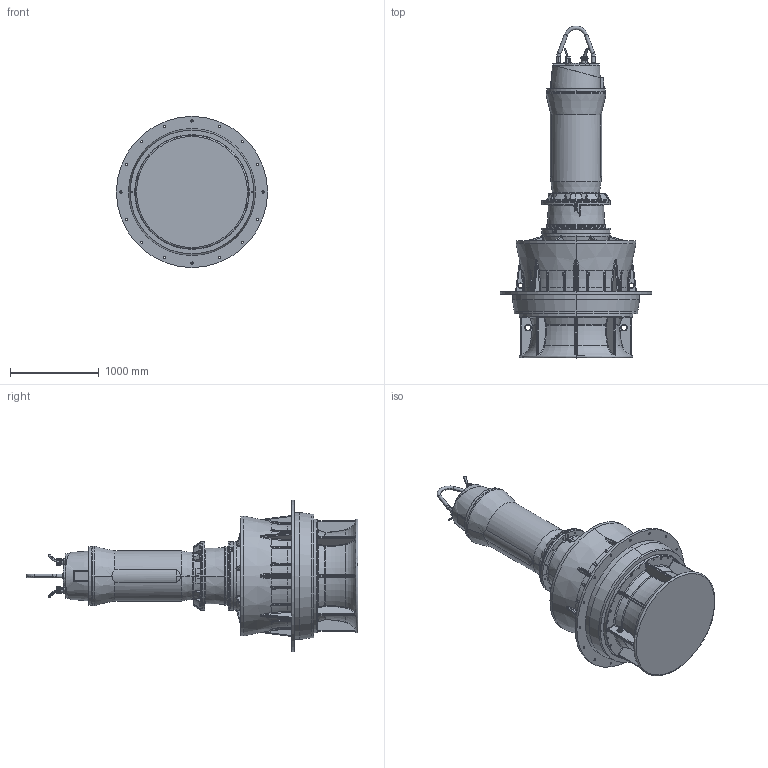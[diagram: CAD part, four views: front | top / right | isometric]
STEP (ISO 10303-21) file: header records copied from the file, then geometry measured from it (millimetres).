
FILE_DESCRIPTION (( 'STEP AP214' ), '1' );
FILE_NAME ('PE7_VUPX1200G3_FU_A.STEP', '2017-05-08T06:54:24', ( '' ), ( '' ), 'SwSTEP 2.0', 'SolidWorks 2017', '' );
FILE_SCHEMA (( 'AUTOMOTIVE_DESIGN' ));
Length unit declared in the file: millimetre
Products named in the file (1): PE7_VUPX1200G3_FU_A
Bounding box: 1700 x 3734 x 1700 mm (x, y, z)
Volume: 2083161875.8 mm3; surface area: 18732514.5 mm2
Topology: 4 solids, 31 shells, 4134 faces, 10016 edges, 5790 vertices
Faces by surface type: bspline 1263, cylinder 998, plane 876, torus 466, cone 404, sphere 127
Entity records: 234239 total; most frequent: CARTESIAN_POINT 103033, ORIENTED_EDGE 19456, DIRECTION 15893, EDGE_CURVE 9728, AXIS2_PLACEMENT_3D 6596, VERTEX_POINT 5789, EDGE_LOOP 4367, UNCERTAINTY_MEASURE_WITH_UNIT 4140
